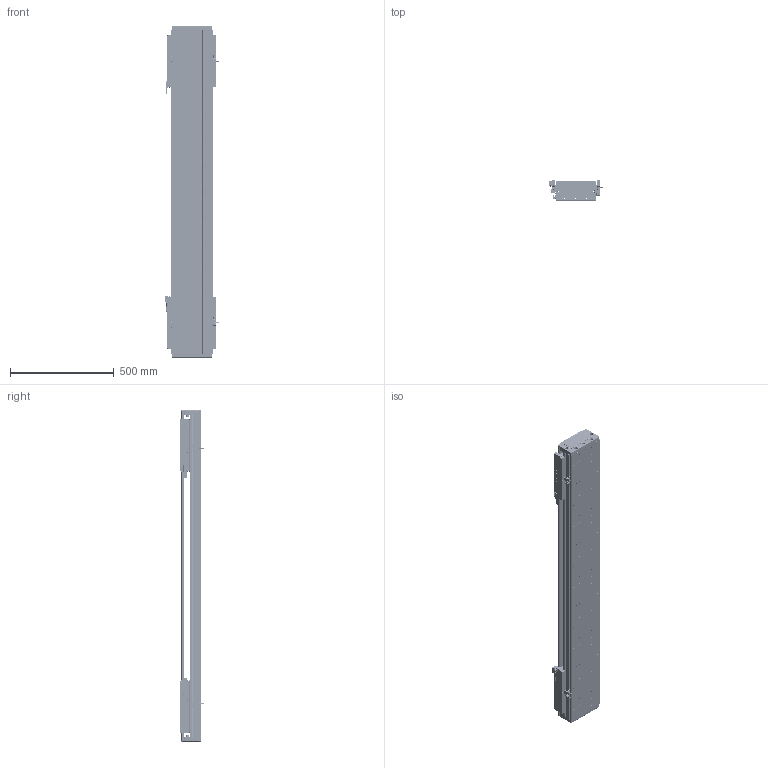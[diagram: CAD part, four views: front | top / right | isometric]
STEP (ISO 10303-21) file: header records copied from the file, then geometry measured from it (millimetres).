
FILE_DESCRIPTION (( 'STEP AP203' ), '1' );
FILE_NAME ('DA-C195-2-C3-T980-C010-0.2 眻盄萇儂.STEP', '2025-08-14T11:02:13', ( '' ), ( '' ), 'SwSTEP 2.0', 'SolidWorks 2019', '' );
FILE_SCHEMA (( 'CONFIG_CONTROL_DESIGN' ));
Length unit declared in the file: millimetre
Products named in the file (16): CU195-C3賑輸-俋楷; 66156-0001-003-00 裔啣; DA195-DG-H-00  端盖（压铸镂空版）; PM-T45ㄗ侂狟ㄘ; DA165-GYP-00 光电感应片(默认); 葩璃 DA95-GT-T-00; IU-CU195-L 菁釱絳寢; LMT黍杅芛; IU-CU195-L-00 菁釱(L1560); DKW168-HXJ-ZJ-00 笢潔滅袉砎蝶; DA95-HXJ-00 遣喳砎蝶; DKW-KGZ-ZJ-00 中间光电开关支架; DA-C195-2-C3-T980-C010-0.2 眻盄萇儂; DKW-GYP-ZJ-00 笢潔嫖萇覜茼え; PM-Y65嫖萇羲壽郪璃; MS200 棠掑喜S315-T240
Assembly tree (28 placements, depth 3):
  DA-C195-2-C3-T980-C010-0.2 眻盄萇儂
    IU-CU195-L 菁釱絳寢
      IU-CU195-L-00 菁釱(L1560)
      葩璃 DA95-GT-T-00  x4
    LMT黍杅芛  x2
    MS200 棠掑喜S315-T240
    PM-T45ㄗ侂狟ㄘ  x4
    DA165-GYP-00 光电感应片(默认)  x2
    DA195-DG-H-00  端盖（压铸镂空版）  x2
    DA95-HXJ-00 遣喳砎蝶  x4
    PM-Y65嫖萇羲壽郪璃
    66156-0001-003-00 裔啣
    DKW168-HXJ-ZJ-00 笢潔滅袉砎蝶
    DKW-GYP-ZJ-00 笢潔嫖萇覜茼え
    DKW-KGZ-ZJ-00 中间光电开关支架
    CU195-C3賑輸-俋楷  x2
Bounding box: 258.2 x 115.6 x 1600 mm (x, y, z)
Volume: 12712314.2 mm3; surface area: 3510102.5 mm2
Topology: 146 solids, 218 shells, 7920 faces, 20224 edges, 12343 vertices
Faces by surface type: cylinder 3344, plane 2792, cone 914, bspline 718, torus 80, sphere 72
Entity records: 162921 total; most frequent: CARTESIAN_POINT 50406, ORIENTED_EDGE 23634, DIRECTION 22272, EDGE_CURVE 11817, AXIS2_PLACEMENT_3D 8139, VERTEX_POINT 7496, VECTOR 5994, LINE 5994
